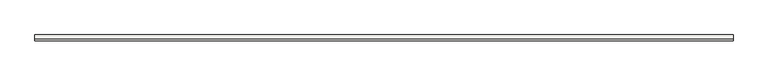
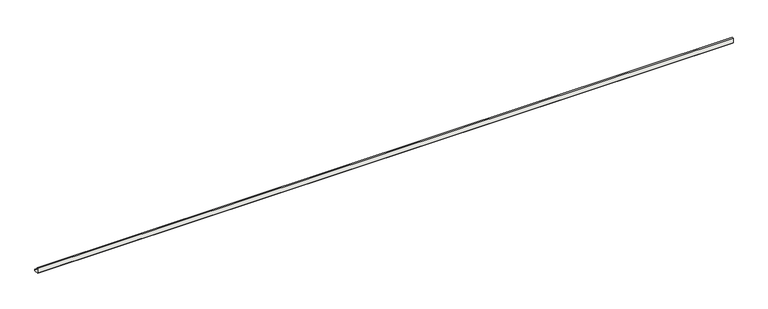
"""IFC4 building model written with IfcOpenShell, lengths in millimetres: slab geometry, ROSA GRES_112 : Pieza 112_Aqua_Plomo_Liso."""

from ifc_helpers import new_model, si_unit, point, frame, frame_2d, origin, place, context, project, spatial, polyline, circle_curve, trimmed, segment, composite_curve, outline, extrude, source, transform, mapped, element, save


def slab_870bf23e(model_context):
    return source(origin(), model_context, "Body", "SweptSolid", [
        extrude(outline(composite_curve([segment(polyline([(0.0, 8.7114978), (0.0, 40.0), (9.9734114, 40.0)]), True, "CONTINUOUS"), segment(trimmed(circle_curve(frame_2d((39.9955547, 39.9955547)), 30.0221435), [point((9.9734114, 40.0))], [point((40.0, 9.9734114))], True, "CARTESIAN"), True, "CONTINUOUS"), segment(polyline([(40.0, 9.9734114), (40.0, 0.0), (8.7114978, 0.0), (0.0, 8.7114978)]), True, "CONTINUOUS")], self_intersect=False)), frame((0.0, 0.0, 0.0), z_axis=(1.0, 0.0, 0.0), x_axis=(0.0, 1.0, 0.0)), (0.0, 0.0, 1.0), 4750.554159),
    ])


if __name__ == "__main__":
    model = new_model("IFC4")
    model_context = context("Model", 3, world=origin())
    ifc_project = project(units=[si_unit("LENGTHUNIT", "METRE", prefix="MILLI")], contexts=[model_context])
    site = spatial("IfcSite", under=ifc_project)
    building = spatial("IfcBuilding", under=site)
    placement = place(None, origin())
    slab_shape = slab_870bf23e(model_context)
    element("IfcSlab", 1, ObjectType="ROSA GRES_112 : Pieza 112_Aqua_Plomo_Liso", at=placement, inside=building, context=model_context, shape_type="MappedRepresentation", body=[
        mapped(slab_shape, transform((0.0, 0.0, 0.0), x_axis=(1.0, 0.0, 0.0), y_axis=(0.0, 1.0, 0.0), z_axis=(0.0, 0.0, 1.0))),
    ])
    save(model, "model.ifc")
